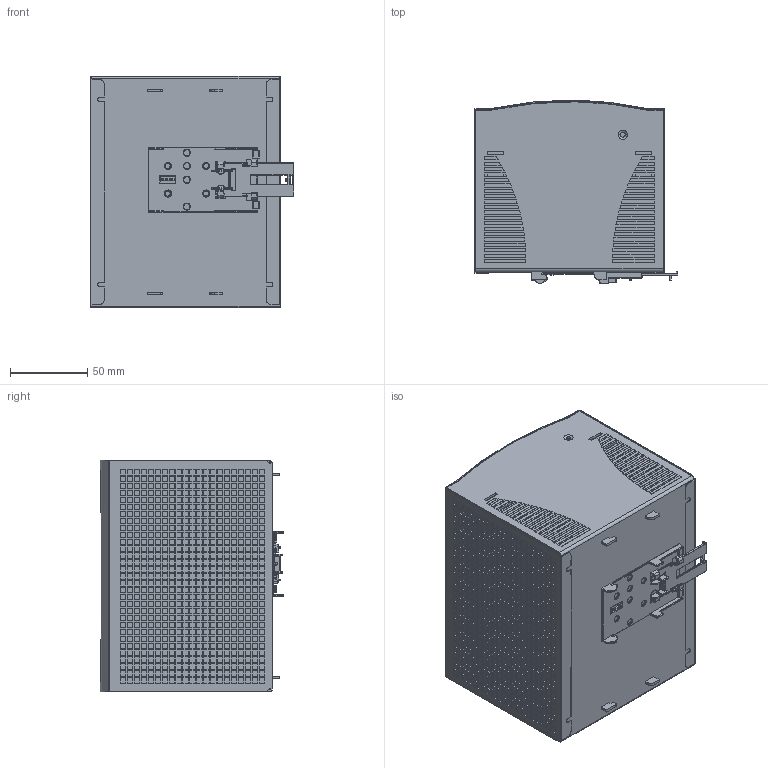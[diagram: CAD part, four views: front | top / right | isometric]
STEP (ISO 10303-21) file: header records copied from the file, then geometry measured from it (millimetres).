
FILE_DESCRIPTION((''),'2;1');
FILE_NAME('WRA480_20140120','2014-01-20T',('rd13'),(''),'PRO/ENGINEER BY PARAMETRIC TECHNOLOGY CORPORATION, 2008230','PRO/ENGINEER BY PARAMETRIC TECHNOLOGY CORPORATION, 2008230','');
FILE_SCHEMA(('AUTOMOTIVE_DESIGN_CC2 { 1 2 10303 214 -1 1 5 2 }'));
Products named in the file (1): WRA480_20140120
Bounding box: 132.3 x 118.87 x 150 mm (x, y, z)
Volume: 1995806.4 mm3; surface area: 158124.4 mm2
Topology: 2 solids, 2 shells, 7436 faces, 17953 edges, 11805 vertices
Faces by surface type: plane 6747, cylinder 493, torus 93, bspline 82, sphere 10, cone 6, extrusion 5
Entity records: 214631 total; most frequent: CARTESIAN_POINT 40051, ORIENTED_EDGE 35894, DIRECTION 33502, EDGE_CURVE 17947, VECTOR 16750, LINE 16745, VERTEX_POINT 11805, EDGE_LOOP 8764
